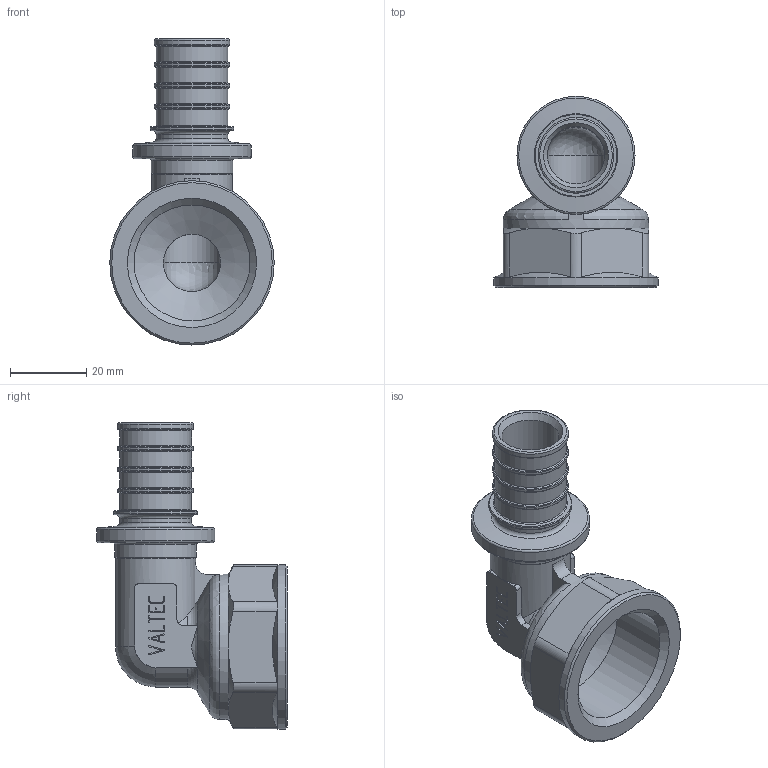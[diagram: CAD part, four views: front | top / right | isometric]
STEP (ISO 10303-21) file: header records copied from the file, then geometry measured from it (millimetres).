
FILE_DESCRIPTION(('STEP AP203'), '1');
FILE_NAME('ÂÐ.752213.011 - VTm.452.G.002506 - Ôèò. àêñ. óãîë', '', ('UNSPECIFIED'), ('UNSPECIFIED'), 'C3D Converter', 'C3D Toolkit', '');
FILE_SCHEMA(('CONFIG_CONTROL_DESIGN'));
Length unit declared in the file: millimetre
Products named in the file (1): ВР.752213.011
Bounding box: 43 x 49.95 x 80.1 mm (x, y, z)
Volume: 24730.5 mm3; surface area: 15471.1 mm2
Topology: 1 solids, 1 shells, 344 faces, 932 edges, 605 vertices
Faces by surface type: extrusion 142, plane 121, cylinder 35, torus 30, cone 14, sphere 2
Full cylindrical faces by diameter (mm): 15 x2, 18.8 x5, 19.8 x4, 21 x1, 21.4 x1, 21.8 x1, 30.292 x1, 30.9 x1, 38 x1, 43 x1
Entity records: 15366 total; most frequent: CARTESIAN_POINT 4749, ORIENTED_EDGE 1764, DIRECTION 1168, EDGE_CURVE 882, VERTEX_POINT 605, VECTOR 576, B_SPLINE_CURVE_WITH_KNOTS 493, LINE 434
